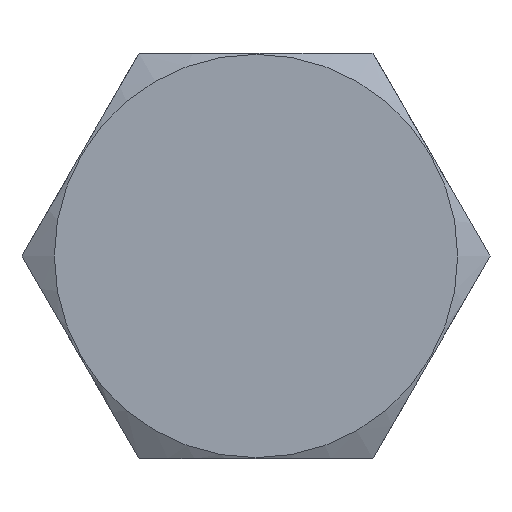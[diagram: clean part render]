
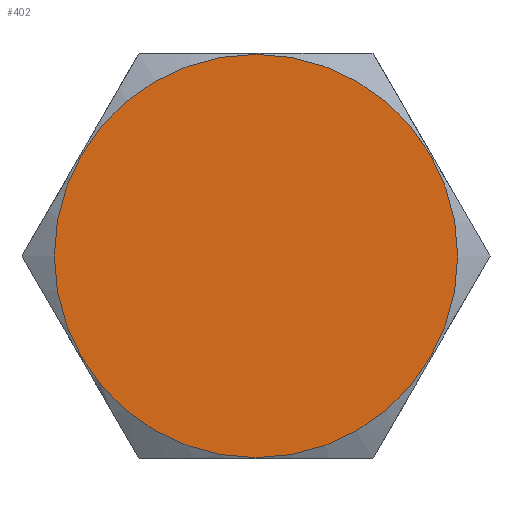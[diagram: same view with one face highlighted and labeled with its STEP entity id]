
A CAD part, front view. The second image highlights one B-rep face of the part: STEP entity #402.
In plain terms, the highlighted planar face has unit normal (0, -1, 0).
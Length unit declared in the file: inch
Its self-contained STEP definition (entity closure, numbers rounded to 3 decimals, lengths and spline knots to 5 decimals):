
#25=PLANE('',#461);
#76=FACE_OUTER_BOUND('',#100,.T.);
#100=EDGE_LOOP('',(#366));
#157=CIRCLE('',#460,0.74625);
#197=VERTEX_POINT('',#775);
#255=EDGE_CURVE('',#197,#197,#157,.T.);
#366=ORIENTED_EDGE('',*,*,#255,.F.);
#402=ADVANCED_FACE('',(#76),#25,.T.);
#460=AXIS2_PLACEMENT_3D('',#776,#564,#565);
#461=AXIS2_PLACEMENT_3D('',#778,#567,#568);
#564=DIRECTION('center_axis',(0.,1.,0.));
#565=DIRECTION('ref_axis',(0.,0.,1.));
#567=DIRECTION('center_axis',(0.,-1.,0.));
#568=DIRECTION('ref_axis',(0.,0.,-1.));
#775=CARTESIAN_POINT('',(0.,0.,-0.74625));
#776=CARTESIAN_POINT('Origin',(0.,0.,0.));
#778=CARTESIAN_POINT('Origin',(0.,0.,0.));
